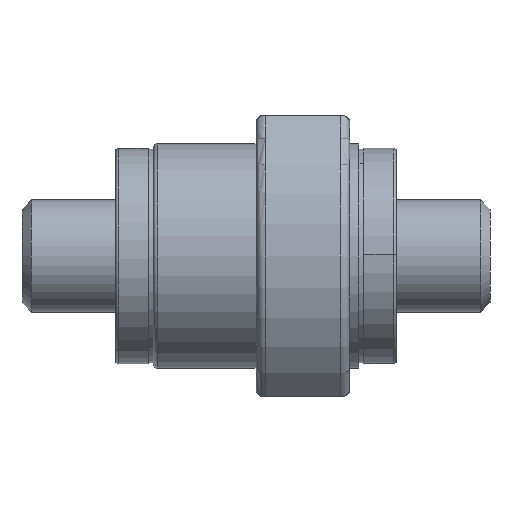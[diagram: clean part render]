
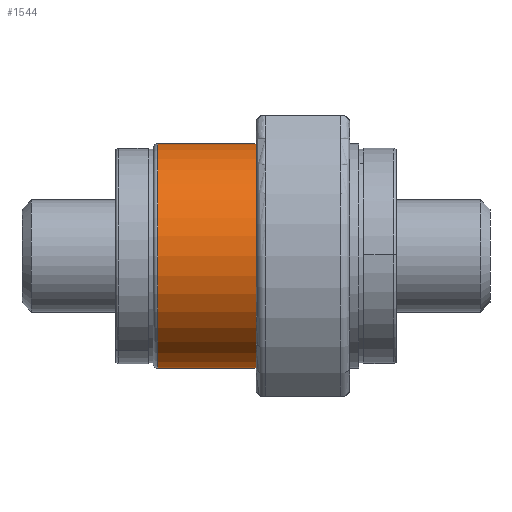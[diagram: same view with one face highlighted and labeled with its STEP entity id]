
A CAD part, front view. The second image highlights one B-rep face of the part: STEP entity #1544.
In plain terms, the highlighted cylindrical face has radius 12 mm (diameter 24 mm), a partial arc.
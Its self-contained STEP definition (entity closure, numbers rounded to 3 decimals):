
#69 = VERTEX_POINT ( 'NONE', #458 ) ;
#156 = CARTESIAN_POINT ( 'NONE',  ( -11.5, 0., 12. ) ) ;
#458 = CARTESIAN_POINT ( 'NONE',  ( -1., 0., 12. ) ) ;
#901 = AXIS2_PLACEMENT_3D ( 'NONE', #1852, #3201, #5634 ) ;
#997 = VECTOR ( 'NONE', #4008, 1000. ) ;
#1073 = LINE ( 'NONE', #4524, #1146 ) ;
#1121 = EDGE_CURVE ( 'NONE', #1133, #4360, #5579, .T. ) ;
#1133 = VERTEX_POINT ( 'NONE', #156 ) ;
#1146 = VECTOR ( 'NONE', #1692, 1000. ) ;
#1188 = DIRECTION ( 'NONE',  ( 1., 0., 0. ) ) ;
#1525 = CARTESIAN_POINT ( 'NONE',  ( -11.5, 0., -12. ) ) ;
#1544 = ADVANCED_FACE ( 'NONE', ( #3725 ), #2085, .T. ) ;
#1692 = DIRECTION ( 'NONE',  ( 1., 0., 0. ) ) ;
#1852 = CARTESIAN_POINT ( 'NONE',  ( -1., 0., 0. ) ) ;
#2054 = VERTEX_POINT ( 'NONE', #4066 ) ;
#2085 = CYLINDRICAL_SURFACE ( 'NONE', #2209, 12. ) ;
#2156 = EDGE_CURVE ( 'NONE', #4360, #2054, #1073, .T. ) ;
#2182 = ORIENTED_EDGE ( 'NONE', *, *, #2991, .F. ) ;
#2209 = AXIS2_PLACEMENT_3D ( 'NONE', #4052, #1188, #3131 ) ;
#2524 = DIRECTION ( 'NONE',  ( 0., 0., 1. ) ) ;
#2660 = EDGE_CURVE ( 'NONE', #2054, #69, #5006, .T. ) ;
#2991 = EDGE_CURVE ( 'NONE', #1133, #69, #3827, .T. ) ;
#3131 = DIRECTION ( 'NONE',  ( 0., 0., -1. ) ) ;
#3201 = DIRECTION ( 'NONE',  ( -1., 0., 0. ) ) ;
#3489 = DIRECTION ( 'NONE',  ( 1., 0., 0. ) ) ;
#3725 = FACE_OUTER_BOUND ( 'NONE', #5084, .T. ) ;
#3827 = LINE ( 'NONE', #5476, #997 ) ;
#4008 = DIRECTION ( 'NONE',  ( 1., 0., 0. ) ) ;
#4052 = CARTESIAN_POINT ( 'NONE',  ( -12., 0., 0. ) ) ;
#4066 = CARTESIAN_POINT ( 'NONE',  ( -1., 0., -12. ) ) ;
#4270 = AXIS2_PLACEMENT_3D ( 'NONE', #5369, #3489, #2524 ) ;
#4360 = VERTEX_POINT ( 'NONE', #1525 ) ;
#4524 = CARTESIAN_POINT ( 'NONE',  ( -12., 0., -12. ) ) ;
#4824 = ORIENTED_EDGE ( 'NONE', *, *, #2156, .T. ) ;
#5006 = CIRCLE ( 'NONE', #901, 12. ) ;
#5045 = ORIENTED_EDGE ( 'NONE', *, *, #2660, .T. ) ;
#5084 = EDGE_LOOP ( 'NONE', ( #2182, #5785, #4824, #5045 ) ) ;
#5369 = CARTESIAN_POINT ( 'NONE',  ( -11.5, 0., 0. ) ) ;
#5476 = CARTESIAN_POINT ( 'NONE',  ( -12., 0., 12. ) ) ;
#5579 = CIRCLE ( 'NONE', #4270, 12. ) ;
#5634 = DIRECTION ( 'NONE',  ( 0., 0., -1. ) ) ;
#5785 = ORIENTED_EDGE ( 'NONE', *, *, #1121, .T. ) ;
